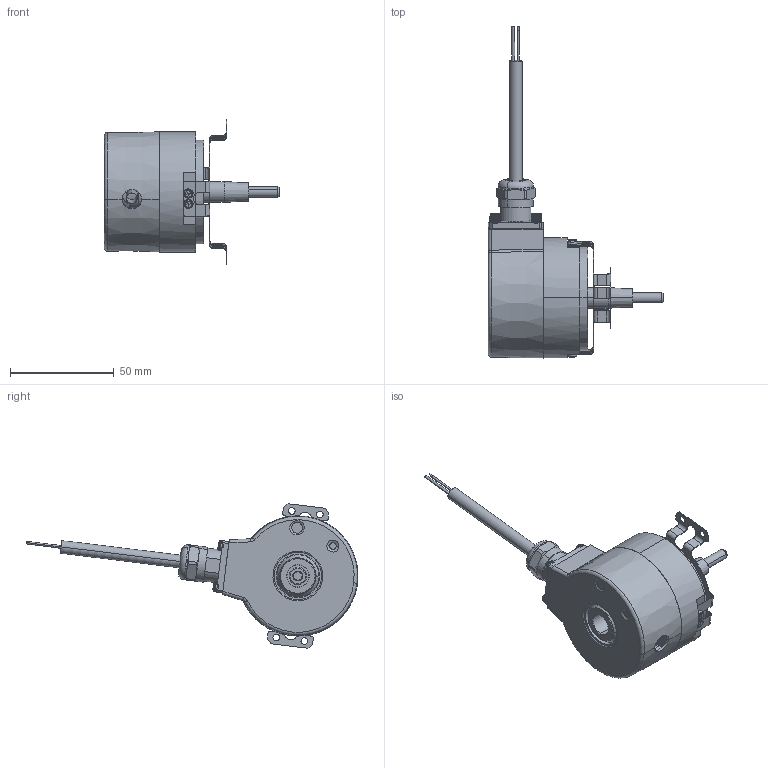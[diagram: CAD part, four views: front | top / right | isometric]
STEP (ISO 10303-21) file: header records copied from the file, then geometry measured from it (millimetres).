
FILE_DESCRIPTION (( 'STEP AP203' ), '1' );
FILE_NAME ('8.5834FSX.BKX2.XXXX.STEP', '2013-08-01T13:36:36', ( 'Admin' ), ( 'Fritz Kübler GmbH' ), 'SwSTEP 2.0', 'SolidWorks 2012', '' );
FILE_SCHEMA (( 'CONFIG_CONTROL_DESIGN' ));
Length unit declared in the file: millimetre
Products named in the file (1): 8.5834FSX.BKX2.XXXX
Bounding box: 84.5 x 160.1 x 69.69 mm (x, y, z)
Volume: 86549.1 mm3; surface area: 54849 mm2
Topology: 24 solids, 24 shells, 1249 faces, 3024 edges, 1839 vertices
Faces by surface type: plane 439, cylinder 392, cone 235, torus 112, sphere 36, bspline 35
Entity records: 38525 total; most frequent: CARTESIAN_POINT 9355, DIRECTION 6416, ORIENTED_EDGE 5868, EDGE_CURVE 2934, AXIS2_PLACEMENT_3D 2580, VERTEX_POINT 1809, EDGE_LOOP 1401, CIRCLE 1365
